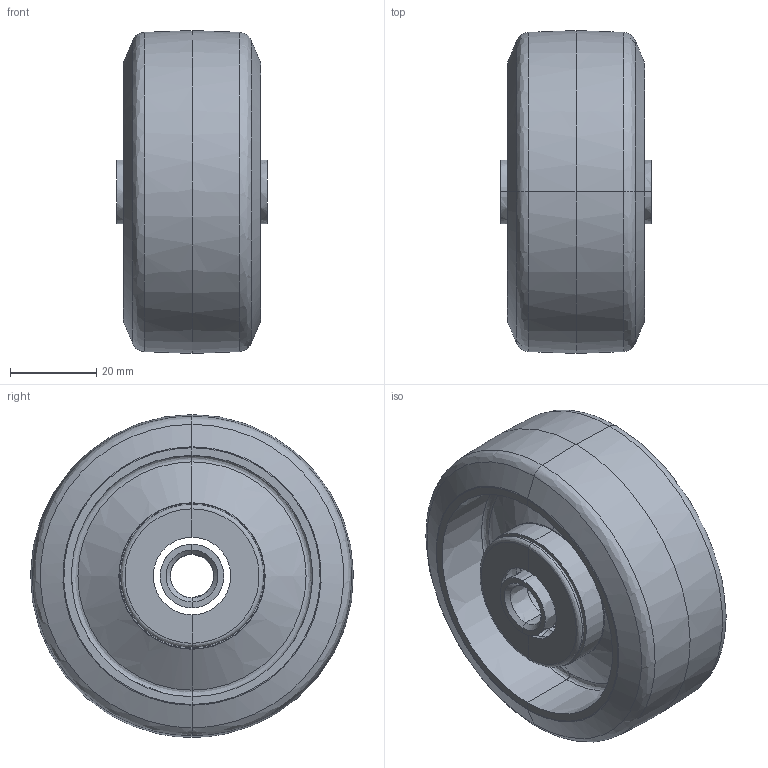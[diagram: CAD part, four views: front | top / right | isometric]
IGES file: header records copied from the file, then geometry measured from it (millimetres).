
Start section: JAMA-IS VERSION  1.0
Global section: file name: E:\tools-models\その他メーカー2\INOAC車輪\4月\P75W\P-75W-3D_igs.igs; native system: CAM-TOOL; preprocessor: C3out Version 11.1.1.50212 (2015/02/12); author: NONE; organization: NONE; date: 220414.111801; units: millimetre
Bounding box: 35 x 74.99 x 75 mm (x, y, z)
Surface area: 49234 mm2 (no closed solid volume)
Topology: 0 solids, 0 shells, 208 faces, 1006 edges, 1170 vertices
Faces by surface type: bspline 208
